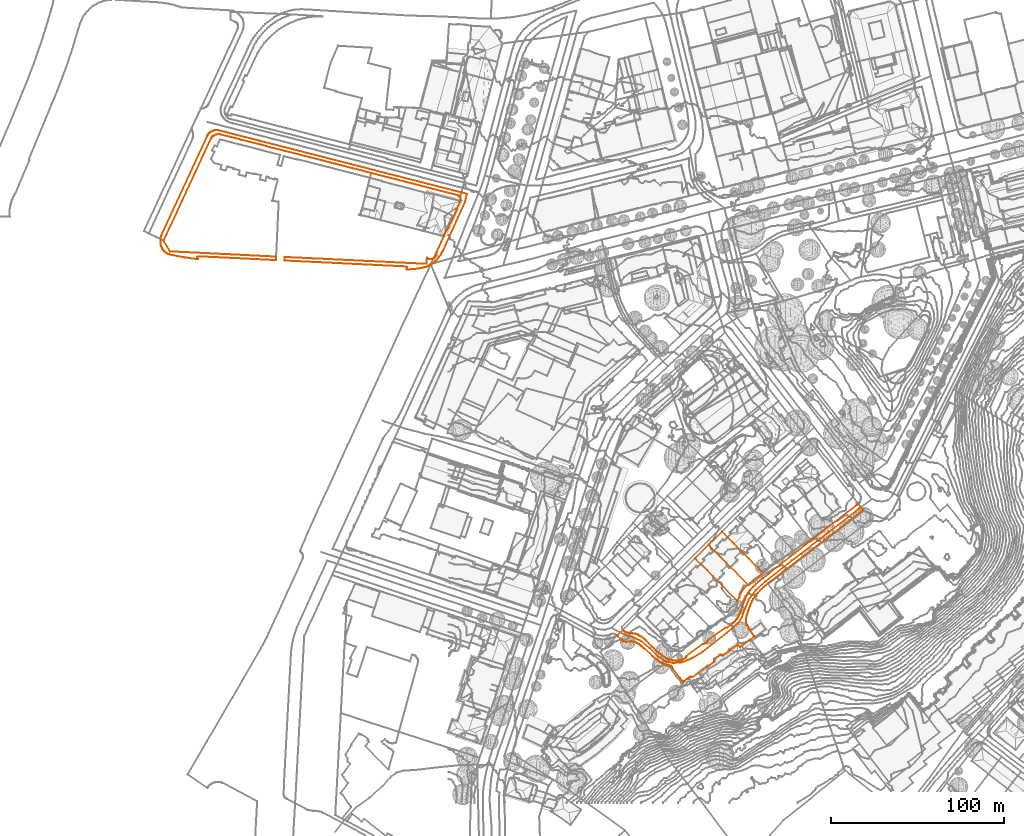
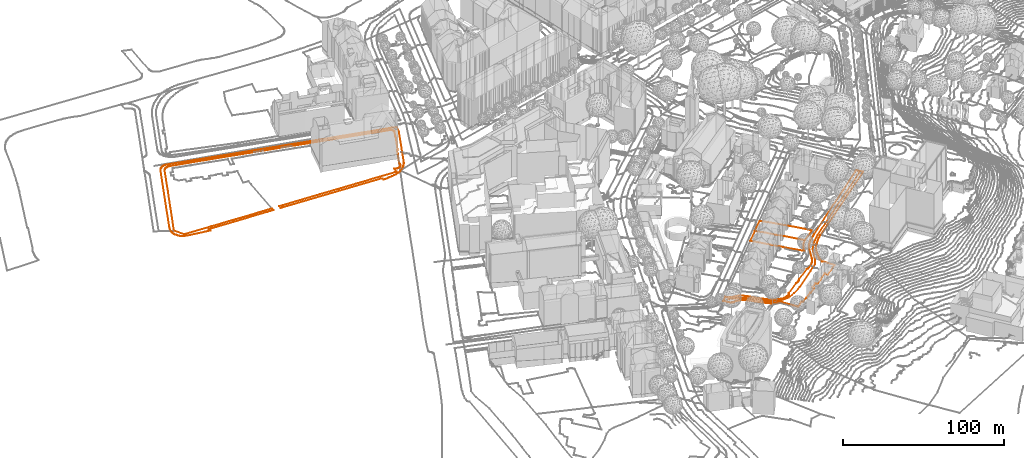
# Not in any storey, part 96 of 494: 5 proxies.
"""IFC2X3 model written with IfcOpenShell, lengths in metres."""

from ifc_helpers import new_model, entity, si_unit, frame, origin_with_axes, place, context, subcontext, project, element, save


model = new_model("IFC2X3")

# Units and contexts
model_context = context("Model", 3, precision=1e-05, world=origin_with_axes())
body_context = subcontext(model_context, "Body", "Model", "MODEL_VIEW")
ifc_project = project(units=[si_unit("AREAUNIT", "SQUARE_METRE"), si_unit("LENGTHUNIT", "METRE")], contexts=[model_context])

# Proxies
proxy_1_placement = place(None, frame((100.2387320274, 96.0867402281, 531.113), z_axis=(0.0, 0.0, 1.0), x_axis=(1.0, 0.0, 0.0)))
element("IfcBuildingElementProxy", 1, at=proxy_1_placement, Name="Road 79", ObjectType="NOTDEFINED", context=body_context, shape_type="GeometricCurveSet", body=[
    entity("IfcGeometricCurveSet", [entity("IfcPolyline", [entity("IfcCartesianPoint", [0.0, 0.0, 0.0]), entity("IfcCartesianPoint", [5.873999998, -1.9079999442, -0.327]), entity("IfcCartesianPoint", [10.1329999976, -3.9629998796, -0.416]), entity("IfcCartesianPoint", [15.125, -8.0759997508, -0.762]), entity("IfcCartesianPoint", [19.2369999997, -12.1869996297, -0.742]), entity("IfcCartesianPoint", [23.3489999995, -15.2709995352, -0.932]), entity("IfcCartesianPoint", [28.7819999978, -16.5919994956, -1.02]), entity("IfcCartesianPoint", [34.2149999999, -16.151999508, -1.14]), entity("IfcCartesianPoint", [39.6479999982, -13.8019995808, -0.895]), entity("IfcCartesianPoint", [45.6689999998, -10.1309996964, -0.771]), entity("IfcCartesianPoint", [59.7670000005, 1.0289999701, -0.377]), entity("IfcCartesianPoint", [65.9339999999, 6.0219998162, -0.226]), entity("IfcCartesianPoint", [68.4299999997, 9.9869996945, 0.024]), entity("IfcCartesianPoint", [70.1919999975, 14.9789995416, 0.289]), entity("IfcCartesianPoint", [72.3939999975, 19.9719993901, 0.511]), entity("IfcCartesianPoint", [76.3590000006, 25.4049992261, 0.835]), entity("IfcCartesianPoint", [81.7929999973, 30.3979990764, 1.275]), entity("IfcCartesianPoint", [97.0639999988, 42.4389987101, 1.964]), entity("IfcCartesianPoint", [118.798, 59.1789981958, 3.142]), entity("IfcCartesianPoint", [135.9779999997, 72.5419977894, 4.028])])]),
])
proxy_2_placement = place(None, frame((-167.0582679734, 323.4217160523, 537.8425140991), z_axis=(0.0, 0.0, 1.0), x_axis=(1.0, 0.0, 0.0)))
element("IfcBuildingElementProxy", 2, at=proxy_2_placement, Name="Roads Outline 1", ObjectType="NOTDEFINED", context=body_context, shape_type="GeometricCurveSet", body=[
    entity("IfcGeometricCurveSet", [entity("IfcPolyline", [entity("IfcCartesianPoint", [0.0520000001, 0.794, 0.0778905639]), entity("IfcCartesianPoint", [0.1720000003, 1.628, 0.1414368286]), entity("IfcCartesianPoint", [0.3599999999, 2.449, 0.1229888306]), entity("IfcCartesianPoint", [0.6140000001, 3.253, 0.1422283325]), entity("IfcCartesianPoint", [0.932, 4.0330000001, 0.1900737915]), entity("IfcCartesianPoint", [27.0049999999, 60.2550000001, 0.5400443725]), entity("IfcCartesianPoint", [27.142, 60.5490000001, 0.5126433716]), entity("IfcCartesianPoint", [27.298, 60.8330000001, 0.4861743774]), entity("IfcCartesianPoint", [27.4399999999, 61.0580000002, 0.4652042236]), entity("IfcCartesianPoint", [27.5929999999, 61.277, 0.4455913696]), entity("IfcCartesianPoint", [27.9020000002, 61.659, 0.4208770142]), entity("IfcCartesianPoint", [28.2420000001, 62.0140000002, 0.3979094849]), entity("IfcCartesianPoint", [28.611, 62.3390000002, 0.3934667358]), entity("IfcCartesianPoint", [29.0180000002, 62.6400000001, 0.429456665]), entity("IfcCartesianPoint", [29.4509999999, 62.9040000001, 0.461022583]), entity("IfcCartesianPoint", [29.997, 63.2100000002, 0.4976103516]), entity("IfcCartesianPoint", [30.574, 63.4500000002, 0.5236322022]), entity("IfcCartesianPoint", [31.176, 63.6220000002, 0.5419093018]), entity("IfcCartesianPoint", [31.7930000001, 63.7220000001, 0.5525355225]), entity("IfcCartesianPoint", [32.3420000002, 63.75, 0.5555108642]), entity("IfcCartesianPoint", [32.892, 63.7220000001, 0.5525355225]), entity("IfcCartesianPoint", [33.4360000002, 63.638, 0.5436094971]), entity("IfcCartesianPoint", [33.9679999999, 63.4990000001, 0.5288390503]), entity("IfcCartesianPoint", [173.8810000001, 27.709, 0.9821370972]), entity("IfcCartesianPoint", [177.0249999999, 26.925, 1.0254997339]), entity("IfcCartesianPoint", [175.7760000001, 22.1140000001, 0.8991806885]), entity("IfcCartesianPoint", [163.142, -5.6869999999, -0.1214408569]), entity("IfcCartesianPoint", [162.6850000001, -6.6339999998, -0.1428406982]), entity("IfcCartesianPoint", [162.1780000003, -7.554, -0.1546447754]), entity("IfcCartesianPoint", [161.6210000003, -8.4449999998, -0.1720094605]), entity("IfcCartesianPoint", [161.0160000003, -9.3049999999, -0.1275359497]), entity("IfcCartesianPoint", [160.5010000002, -9.966, -0.0865463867]), entity("IfcCartesianPoint", [159.9580000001, -10.6039999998, -0.0871304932]), entity("IfcCartesianPoint", [159.3880000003, -11.2169999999, -0.1146835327]), entity("IfcCartesianPoint", [158.602, -11.98, -0.1548526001]), entity("IfcCartesianPoint", [157.7740000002, -12.6979999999, -0.1822859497]), entity("IfcCartesianPoint", [156.9070000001, -13.3669999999, -0.1912289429]), entity("IfcCartesianPoint", [156.5890000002, -13.5939999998, -0.1937782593]), entity("IfcCartesianPoint", [156.267, -13.814, -0.1988867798]), entity("IfcCartesianPoint", [156.1440000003, -13.892, -0.2030286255]), entity("IfcCartesianPoint", [155.9730000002, -13.9979999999, -0.2086572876]), entity("IfcCartesianPoint", [155.4870000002, -14.277, -0.2234723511]), entity("IfcCartesianPoint", [154.9909999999, -14.5379999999, -0.237331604]), entity("IfcCartesianPoint", [154.2030000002, -14.8979999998, -0.2504185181]), entity("IfcCartesianPoint", [153.3940000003, -15.2069999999, -0.254152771]), entity("IfcCartesianPoint", [152.5660000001, -15.463, -0.257246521]), entity("IfcCartesianPoint", [151.7230000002, -15.6639999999, -0.2596755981]), entity("IfcCartesianPoint", [150.165, -15.9509999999, -0.2587494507]), entity("IfcCartesianPoint", [148.5989999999, -16.1949999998, -0.256336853]), entity("IfcCartesianPoint", [147.0270000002, -16.3959999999, -0.2543494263]), entity("IfcCartesianPoint", [145.8960000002, -16.5149999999, -0.2531727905]), entity("IfcCartesianPoint", [144.7630000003, -16.612, -0.2522136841]), entity("IfcCartesianPoint", [143.5079999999, -16.703, -0.2513139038]), entity("IfcCartesianPoint", [142.2510000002, -16.7689999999, -0.251307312]), entity("IfcCartesianPoint", [142.2820000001, -15.4479999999, -0.2570652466]), entity("IfcCartesianPoint", [141.8489999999, -14.9879999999, -0.2515061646]), entity("IfcCartesianPoint", [73.4029999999, -11.6499999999, -0.1401603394]), entity("IfcCartesianPoint", [71.7239999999, -11.5689999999, -0.1353944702]), entity("IfcCartesianPoint", [71.8190000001, -9.5349999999, -0.1062963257]), entity("IfcCartesianPoint", [87.8160000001, -10.2959999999, -0.0868485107]), entity("IfcCartesianPoint", [100.3059999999, -10.9049999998, -0.0963261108]), entity("IfcCartesianPoint", [112.7860000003, -11.504, -0.1315700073]), entity("IfcCartesianPoint", [125.2710000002, -12.1029999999, -0.1595521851]), entity("IfcCartesianPoint", [141.0989999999, -12.8599999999, -0.1855350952]), entity("IfcCartesianPoint", [153.6890000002, -13.4589999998, -0.192262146]), entity("IfcCartesianPoint", [153.858, -9.9309999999, -0.0865143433]), entity("IfcCartesianPoint", [154.2450000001, -10.2119999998, -0.0867716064]), entity("IfcCartesianPoint", [154.6669999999, -10.4369999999, -0.0869776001]), entity("IfcCartesianPoint", [155.1159999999, -10.6009999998, -0.0871277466]), entity("IfcCartesianPoint", [155.5830000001, -10.7019999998, -0.0872202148]), entity("IfcCartesianPoint", [156.0150000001, -10.737, -0.0872522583]), entity("IfcCartesianPoint", [156.4479999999, -10.7169999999, -0.0872339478]), entity("IfcCartesianPoint", [156.875, -10.642, -0.0871652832]), entity("IfcCartesianPoint", [157.2889999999, -10.5149999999, -0.0870490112]), entity("IfcCartesianPoint", [157.6839999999, -10.3359999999, -0.0868851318]), entity("IfcCartesianPoint", [158.0619999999, -10.1029999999, -0.086671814]), entity("IfcCartesianPoint", [158.4070000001, -9.8219999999, -0.0864145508]), entity("IfcCartesianPoint", [158.7120000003, -9.5, -0.1095284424]), entity("IfcCartesianPoint", [158.9739999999, -9.1409999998, -0.1426807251]), entity("IfcCartesianPoint", [159.1880000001, -8.7519999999, -0.1786033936]), entity("IfcCartesianPoint", [159.3500000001, -8.338, -0.1696714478]), entity("IfcCartesianPoint", [159.4569999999, -7.9069999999, -0.1602538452]), entity("IfcCartesianPoint", [159.5070000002, -7.466, -0.1536618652]), entity("IfcCartesianPoint", [159.5, -7.0219999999, -0.1487026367]), entity("IfcCartesianPoint", [159.4360000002, -6.5819999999, -0.1415806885]), entity("IfcCartesianPoint", [163.6490000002, 2.4480000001, 0.1229650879]), entity("IfcCartesianPoint", [163.5380000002, 2.476, 0.1236298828]), entity("IfcCartesianPoint", [165.2880000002, 6.1670000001, 0.2662664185]), entity("IfcCartesianPoint", [165.5580000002, 6.037, 0.2617437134]), entity("IfcCartesianPoint", [171.3859999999, 18.3890000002, 0.7349958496]), entity("IfcCartesianPoint", [171.1260000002, 18.5090000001, 0.724586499]), entity("IfcCartesianPoint", [173.1460000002, 22.78, 0.9627894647]), entity("IfcCartesianPoint", [173.2889999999, 23.179, 0.9806465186]), entity("IfcCartesianPoint", [173.3620000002, 23.5970000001, 0.9690089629]), entity("IfcCartesianPoint", [173.3640000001, 24.0210000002, 0.9564182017]), entity("IfcCartesianPoint", [173.2940000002, 24.439, 0.9469736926]), entity("IfcCartesianPoint", [173.1550000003, 24.8400000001, 0.9459363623]), entity("IfcCartesianPoint", [173.0070000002, 25.1680000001, 0.950545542]), entity("IfcCartesianPoint", [172.8020000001, 25.4640000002, 0.9593605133]), entity("IfcCartesianPoint", [172.548, 25.719, 0.9617019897]), entity("IfcCartesianPoint", [172.2519999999, 25.9240000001, 0.9560527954]), entity("IfcCartesianPoint", [171.9240000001, 26.0730000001, 0.9473505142]), entity("IfcCartesianPoint", [171.5750000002, 26.1600000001, 0.9446512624]), entity("IfcCartesianPoint", [121.6710000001, 38.9470000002, 0.865111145]), entity("IfcCartesianPoint", [111.2400000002, 41.6160000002, 0.8527844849]), entity("IfcCartesianPoint", [100.8300000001, 44.2860000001, 0.8056347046]), entity("IfcCartesianPoint", [90.4190000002, 46.9550000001, 0.7582887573]), entity("IfcCartesianPoint", [71.9980000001, 51.675, 0.6744817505]), entity("IfcCartesianPoint", [57.9980000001, 55.2540000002, 0.6109493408]), entity("IfcCartesianPoint", [46.8170000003, 58.1230000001, 0.5599923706]), entity("IfcCartesianPoint", [34.7570000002, 61.213, 0.4507581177]), entity("IfcCartesianPoint", [34.1910000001, 61.3250000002, 0.4424859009]), entity("IfcCartesianPoint", [33.6159999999, 61.3700000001, 0.4395745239]), entity("IfcCartesianPoint", [33.0389999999, 61.3490000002, 0.4409331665]), entity("IfcCartesianPoint", [32.469, 61.2620000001, 0.4465618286]), entity("IfcCartesianPoint", [31.912, 61.1090000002, 0.4604509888]), entity("IfcCartesianPoint", [31.3769999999, 60.8930000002, 0.4805823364]), entity("IfcCartesianPoint", [30.8710000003, 60.6160000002, 0.5063989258]), entity("IfcCartesianPoint", [30.3999999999, 60.2820000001, 0.5375279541]), entity("IfcCartesianPoint", [29.9709999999, 59.8960000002, 0.5442662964]), entity("IfcCartesianPoint", [29.5890000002, 59.4640000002, 0.5487487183]), entity("IfcCartesianPoint", [29.2600000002, 58.99, 0.5527342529]), entity("IfcCartesianPoint", [28.9870000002, 58.4820000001, 0.5561759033]), entity("IfcCartesianPoint", [19.5090000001, 38.017, 0.8076929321]), entity("IfcCartesianPoint", [12.4110000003, 22.7340000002, 0.6745949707]), entity("IfcCartesianPoint", [5.8100000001, 8.4810000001, 0.3444668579]), entity("IfcCartesianPoint", [1.8530000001, -0.0619999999, 0.0037803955]), entity("IfcCartesianPoint", [5.6140000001, -6.2829999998, -0.1343356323]), entity("IfcCartesianPoint", [24.594, -7.2209999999, -0.150925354]), entity("IfcCartesianPoint", [39.665, -7.96, -0.1614119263]), entity("IfcCartesianPoint", [52.3650000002, -8.5989999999, -0.1753744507]), entity("IfcCartesianPoint", [66.8250000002, -9.298, -0.128182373]), entity("IfcCartesianPoint", [66.7290000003, -11.325, -0.1210380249]), entity("IfcCartesianPoint", [62.2650000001, -11.1069999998, -0.1082113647]), entity("IfcCartesianPoint", [21.7919999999, -9.1329999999, -0.1434194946]), entity("IfcCartesianPoint", [21.3190000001, -9.5379999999, -0.1060192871]), entity("IfcCartesianPoint", [21.3030000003, -10.2169999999, -0.0867761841]), entity("IfcCartesianPoint", [21.8130000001, -10.8219999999, -0.0914425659]), entity("IfcCartesianPoint", [21.2460000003, -10.754, -0.0874415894]), entity("IfcCartesianPoint", [20.6800000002, -10.6839999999, -0.0872037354]), entity("IfcCartesianPoint", [18.8590000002, -10.449, -0.0869885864]), entity("IfcCartesianPoint", [17.0389999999, -10.199, -0.0867597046]), entity("IfcCartesianPoint", [14.0279999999, -9.747, -0.0867189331]), entity("IfcCartesianPoint", [11.023, -9.2519999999, -0.1324302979]), entity("IfcCartesianPoint", [8.3420000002, -8.74, -0.1784553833]), entity("IfcCartesianPoint", [5.6699999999, -8.1779999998, -0.166175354]), entity("IfcCartesianPoint", [4.9820000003, -7.9749999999, -0.1617396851]), entity("IfcCartesianPoint", [4.318, -7.706, -0.1563425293]), entity("IfcCartesianPoint", [3.6830000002, -7.372, -0.1526119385]), entity("IfcCartesianPoint", [3.0840000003, -6.9779999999, -0.1482111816]), entity("IfcCartesianPoint", [2.5270000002, -6.5259999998, -0.1402237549]), entity("IfcCartesianPoint", [2.017, -6.0219999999, -0.1280113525]), entity("IfcCartesianPoint", [1.577, -5.4939999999, -0.1214290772]), entity("IfcCartesianPoint", [1.1890000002, -4.9269999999, -0.1213944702]), entity("IfcCartesianPoint", [0.8560000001, -4.3259999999, -0.0941727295]), entity("IfcCartesianPoint", [0.5810000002, -3.696, -0.0555249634]), entity("IfcCartesianPoint", [0.3659999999, -3.0429999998, -0.0337636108]), entity("IfcCartesianPoint", [0.213, -2.3729999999, -0.0070060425]), entity("IfcCartesianPoint", [0.0810000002, -1.588, 0.0250504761]), entity("IfcCartesianPoint", [0.0100000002, -0.7959999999, 0.0446764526]), entity("IfcCartesianPoint", [0.0, 0.0, 0.0]), entity("IfcCartesianPoint", [0.0520000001, 0.794, 0.0778905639])])]),
])
proxy_3_placement = place(None, frame((96.6207320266, 95.4677160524, 531.3511638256), z_axis=(0.0, 0.0, 1.0), x_axis=(1.0, 0.0, 0.0)))
element("IfcBuildingElementProxy", 3, at=proxy_3_placement, Name="Roads Outline 31", ObjectType="NOTDEFINED", context=body_context, shape_type="GeometricCurveSet", body=[
    entity("IfcGeometricCurveSet", [entity("IfcPolyline", [entity("IfcCartesianPoint", [0.0, 0.0, 0.0]), entity("IfcCartesianPoint", [3.2930000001, 3.179, 0.0158061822]), entity("IfcCartesianPoint", [3.9270000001, 2.5449999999, -0.0569556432]), entity("IfcCartesianPoint", [4.341, 2.2609999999, -0.0816735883]), entity("IfcCartesianPoint", [4.7660000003, 1.993, -0.1315604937]), entity("IfcCartesianPoint", [5.04, 1.834, -0.164654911]), entity("IfcCartesianPoint", [5.318, 1.6810000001, -0.1909944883]), entity("IfcCartesianPoint", [5.608, 1.557, -0.2136066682]), entity("IfcCartesianPoint", [5.7760000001, 1.5020000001, -0.2309464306]), entity("IfcCartesianPoint", [5.9479999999, 1.4580000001, -0.2476230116]), entity("IfcCartesianPoint", [6.3100000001, 1.3870000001, -0.2802835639]), entity("IfcCartesianPoint", [6.6770000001, 1.348, -0.3148806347]), entity("IfcCartesianPoint", [6.8999999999, 1.3260000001, -0.339520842]), entity("IfcCartesianPoint", [7.1240000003, 1.3100000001, -0.3649891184]), entity("IfcCartesianPoint", [9.1630000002, 1.148, -0.5103628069]), entity("IfcCartesianPoint", [9.7039999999, 1.094, -0.5351432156]), entity("IfcCartesianPoint", [10.2400000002, 1.0, -0.5315729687]), entity("IfcCartesianPoint", [10.8850000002, 0.831, -0.5443188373]), entity("IfcCartesianPoint", [11.5120000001, 0.6040000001, -0.5636517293]), entity("IfcCartesianPoint", [12.1150000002, 0.324, -0.5659362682]), entity("IfcCartesianPoint", [12.6910000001, -0.0079999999, -0.5875508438]), entity("IfcCartesianPoint", [13.344, -0.3810000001, -0.6252667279]), entity("IfcCartesianPoint", [13.9870000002, -0.7719999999, -0.6190830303]), entity("IfcCartesianPoint", [14.7919999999, -1.344, -0.6405655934]), entity("IfcCartesianPoint", [15.5589999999, -1.9680000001, -0.648665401]), entity("IfcCartesianPoint", [16.1099999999, -2.4609999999, -0.6667955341]), entity("IfcCartesianPoint", [16.639, -2.977, -0.6769479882]), entity("IfcCartesianPoint", [18.0920000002, -4.426, -0.7455713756]), entity("IfcCartesianPoint", [19.4879999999, -5.9299999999, -0.7901399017]), entity("IfcCartesianPoint", [20.3790000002, -6.8300000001, -0.8030144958]), entity("IfcCartesianPoint", [21.2910000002, -7.71, -0.8413836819]), entity("IfcCartesianPoint", [22.219, -8.5649999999, -0.8702769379]), entity("IfcCartesianPoint", [23.1669999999, -9.399, -0.8764018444]), entity("IfcCartesianPoint", [24.051, -10.1810000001, -0.9075246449]), entity("IfcCartesianPoint", [24.9720000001, -10.919, -0.9522966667]), entity("IfcCartesianPoint", [25.9270000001, -11.612, -0.9829199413]), entity("IfcCartesianPoint", [27.0860000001, -12.3629999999, -1.0168337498]), entity("IfcCartesianPoint", [28.2860000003, -13.048, -1.0510406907]), entity("IfcCartesianPoint", [29.0060000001, -13.392, -1.0801719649]), entity("IfcCartesianPoint", [29.7409999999, -13.703, -1.1113975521]), entity("IfcCartesianPoint", [30.4890000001, -13.9809999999, -1.135530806]), entity("IfcCartesianPoint", [31.3810000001, -14.2390000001, -1.1792306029]), entity("IfcCartesianPoint", [32.287, -14.4380000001, -1.1942427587]), entity("IfcCartesianPoint", [33.2050000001, -14.5759999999, -1.2081873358]), entity("IfcCartesianPoint", [34.2689999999, -14.675, -1.2073782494]), entity("IfcCartesianPoint", [35.3370000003, -14.699, -1.1712599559]), entity("IfcCartesianPoint", [35.9670000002, -14.6100000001, -1.1548979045]), entity("IfcCartesianPoint", [36.588, -14.47, -1.147563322]), entity("IfcCartesianPoint", [37.1950000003, -14.281, -1.1321978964]), entity("IfcCartesianPoint", [37.7860000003, -14.044, -1.1153137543]), entity("IfcCartesianPoint", [38.4110000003, -13.7309999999, -1.1053971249]), entity("IfcCartesianPoint", [39.0060000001, -13.3640000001, -1.0971912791]), entity("IfcCartesianPoint", [39.5670000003, -12.9469999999, -1.0887345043]), entity("IfcCartesianPoint", [39.73, -12.8049999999, -1.0841322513]), entity("IfcCartesianPoint", [39.8590000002, -12.632, -1.0757289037]), entity("IfcCartesianPoint", [39.949, -12.436, -1.0694845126]), entity("IfcCartesianPoint", [39.9920000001, -12.246, -1.0658453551]), entity("IfcCartesianPoint", [39.9990000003, -12.0519999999, -1.0636627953]), entity("IfcCartesianPoint", [39.969, -11.8600000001, -1.0624808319]), entity("IfcCartesianPoint", [49.2820000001, -5.0079999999, -0.8290300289]), entity("IfcCartesianPoint", [49.8050000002, -4.977, -0.8148877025]), entity("IfcCartesianPoint", [50.4380000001, -4.6880000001, -0.793606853]), entity("IfcCartesianPoint", [51.0360000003, -4.331, -0.7769803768]), entity("IfcCartesianPoint", [51.5900000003, -3.9099999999, -0.7550214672]), entity("IfcCartesianPoint", [52.0789999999, -3.446, -0.748179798]), entity("IfcCartesianPoint", [52.517, -2.9339999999, -0.7399364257]), entity("IfcCartesianPoint", [52.8990000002, -2.379, -0.7304586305]), entity("IfcCartesianPoint", [62.5130000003, 4.564, -0.4979582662]), entity("IfcCartesianPoint", [63.4550000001, 4.561, -0.4534208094]), entity("IfcCartesianPoint", [67.0500000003, 7.1850000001, -0.2970001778]), entity("IfcCartesianPoint", [67.6669999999, 7.7450000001, -0.2563687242]), entity("IfcCartesianPoint", [68.2450000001, 8.345, -0.2048557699]), entity("IfcCartesianPoint", [68.7820000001, 8.983, -0.1681399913]), entity("IfcCartesianPoint", [69.2650000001, 9.645, -0.1403664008]), entity("IfcCartesianPoint", [69.7030000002, 10.3370000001, -0.1178567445]), entity("IfcCartesianPoint", [70.0950000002, 11.0560000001, -0.0483443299]), entity("IfcCartesianPoint", [70.3810000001, 11.6640000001, -0.0099176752]), entity("IfcCartesianPoint", [70.6329999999, 12.2860000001, -0.0082693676]), entity("IfcCartesianPoint", [70.801, 12.71, 0.0299553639]), entity("IfcCartesianPoint", [70.9620000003, 13.1359999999, 0.0622557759]), entity("IfcCartesianPoint", [73.75, 20.6159999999, 0.4204763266]), entity("IfcCartesianPoint", [74.088, 21.601, 0.4544270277]), entity("IfcCartesianPoint", [74.4930000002, 22.5600000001, 0.533122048]), entity("IfcCartesianPoint", [74.9640000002, 23.4879999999, 0.591528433]), entity("IfcCartesianPoint", [75.4980000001, 24.382, 0.627089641]), entity("IfcCartesianPoint", [76.1090000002, 25.2579999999, 0.6667514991]), entity("IfcCartesianPoint", [76.7820000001, 26.088, 0.7111169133]), entity("IfcCartesianPoint", [77.5109999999, 26.8689999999, 0.7673133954]), entity("IfcCartesianPoint", [78.4270000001, 27.8640000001, 0.8253613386]), entity("IfcCartesianPoint", [79.3799999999, 28.825, 0.8766474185]), entity("IfcCartesianPoint", [80.3680000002, 29.7490000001, 0.9326248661]), entity("IfcCartesianPoint", [81.4270000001, 30.7390000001, 0.9778234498]), entity("IfcCartesianPoint", [82.5070000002, 31.706, 0.9497418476]), entity("IfcCartesianPoint", [83.3170000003, 32.368, 1.0122494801]), entity("IfcCartesianPoint", [84.1469999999, 33.0060000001, 1.0813364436]), entity("IfcCartesianPoint", [122.0490000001, 62.7239999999, 3.2017164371]), entity("IfcCartesianPoint", [138.233, 75.199, 4.1804072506]), entity("IfcCartesianPoint", [139.2660000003, 76.04, 4.1295459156]), entity("IfcCartesianPoint", [142.0729999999, 72.4369999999, 4.0428595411]), entity("IfcCartesianPoint", [142.1070000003, 72.3929999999, 4.0430508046]), entity("IfcCartesianPoint", [86.9390000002, 29.956, 1.2352717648]), entity("IfcCartesianPoint", [86.7320000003, 29.797, 1.2148501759]), entity("IfcCartesianPoint", [85.5920000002, 28.8400000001, 1.1947934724]), entity("IfcCartesianPoint", [84.4870000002, 27.841, 1.1339055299]), entity("IfcCartesianPoint", [83.4280000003, 26.814, 0.8697069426]), entity("IfcCartesianPoint", [82.409, 25.747, 0.8219906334]), entity("IfcCartesianPoint", [81.432, 24.6410000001, 0.7399673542]), entity("IfcCartesianPoint", [80.648, 23.7450000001, 0.6977840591]), entity("IfcCartesianPoint", [79.9110000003, 22.8100000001, 0.6717600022]), entity("IfcCartesianPoint", [79.2209999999, 21.8389999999, 0.6201259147]), entity("IfcCartesianPoint", [78.5819999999, 20.834, 0.5139970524]), entity("IfcCartesianPoint", [78.0330000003, 19.8640000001, 0.4536036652]), entity("IfcCartesianPoint", [77.5320000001, 18.868, 0.3751792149]), entity("IfcCartesianPoint", [77.0789999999, 17.8500000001, 0.3506013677]), entity("IfcCartesianPoint", [76.676, 16.811, 0.3187545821]), entity("IfcCartesianPoint", [76.142, 15.4069999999, 0.2706407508]), entity("IfcCartesianPoint", [75.6490000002, 13.9879999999, 0.2033171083]), entity("IfcCartesianPoint", [75.2409999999, 12.7039999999, 0.1325761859]), entity("IfcCartesianPoint", [74.8659999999, 11.409, 0.0792884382]), entity("IfcCartesianPoint", [74.6460000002, 10.5179999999, 0.0196140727]), entity("IfcCartesianPoint", [74.4500000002, 9.622, -0.0040469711]), entity("IfcCartesianPoint", [74.3740000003, 9.0249999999, -0.004695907]), entity("IfcCartesianPoint", [74.3390000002, 8.4240000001, -0.0067944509]), entity("IfcCartesianPoint", [74.3310000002, 7.892, -0.02139242]), entity("IfcCartesianPoint", [74.3810000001, 7.3629999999, -0.042645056]), entity("IfcCartesianPoint", [74.415, 7.0560000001, -0.0639365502]), entity("IfcCartesianPoint", [74.4900000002, 6.7560000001, -0.0959011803]), entity("IfcCartesianPoint", [74.6040000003, 6.4680000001, -0.1293537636]), entity("IfcCartesianPoint", [74.6890000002, 6.2409999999, -0.1538042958]), entity("IfcCartesianPoint", [74.8229999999, 6.04, -0.1545982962]), entity("IfcCartesianPoint", [75.0010000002, 5.8759999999, -0.1530405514]), entity("IfcCartesianPoint", [75.125, 5.7990000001, -0.1531824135]), entity("IfcCartesianPoint", [75.2579999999, 5.7390000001, -0.1538845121]), entity("IfcCartesianPoint", [76.3900000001, 3.9990000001, -0.149455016]), entity("IfcCartesianPoint", [76.1630000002, 3.8160000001, -0.1884783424]), entity("IfcCartesianPoint", [76.96, 2.719, -0.1878580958]), entity("IfcCartesianPoint", [79.3510000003, -0.557, -0.2921348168]), entity("IfcCartesianPoint", [76.9590000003, -2.3030000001, -0.3393293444]), entity("IfcCartesianPoint", [70.932, -6.706, -0.9336899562]), entity("IfcCartesianPoint", [69.6710000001, -4.9779999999, -0.4540167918]), entity("IfcCartesianPoint", [65.0389999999, -8.3589999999, -0.9436426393]), entity("IfcCartesianPoint", [65.2409999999, -8.6359999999, -1.0177780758]), entity("IfcCartesianPoint", [61.2230000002, -11.571, -1.0599296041]), entity("IfcCartesianPoint", [61.1920000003, -11.5290000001, -1.0495729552]), entity("IfcCartesianPoint", [60.9620000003, -11.598, -1.0425273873]), entity("IfcCartesianPoint", [60.7209999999, -11.594, -1.0211534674]), entity("IfcCartesianPoint", [60.4920000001, -11.52, -0.9879663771]), entity("IfcCartesianPoint", [60.2960000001, -11.382, -0.9458653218]), entity("IfcCartesianPoint", [60.2560000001, -11.4110000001, -0.9477569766]), entity("IfcCartesianPoint", [60.074, -11.162, -0.886503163]), entity("IfcCartesianPoint", [59.8330000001, -11.3389999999, -0.8983162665]), entity("IfcCartesianPoint", [59.6370000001, -11.071, -0.8323868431]), entity("IfcCartesianPoint", [59.54, -11.142, -0.8370969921]), entity("IfcCartesianPoint", [59.5049999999, -11.094, -0.8252990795]), entity("IfcCartesianPoint", [56.145, -13.548, -0.8605123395]), entity("IfcCartesianPoint", [56.1800000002, -13.5959999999, -0.8720271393]), entity("IfcCartesianPoint", [56.0840000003, -13.666, -0.8710225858]), entity("IfcCartesianPoint", [56.2800000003, -13.9339999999, -0.9353167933]), entity("IfcCartesianPoint", [56.0279999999, -14.115, -0.9319131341]), entity("IfcCartesianPoint", [56.2110000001, -14.3659999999, -0.992023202]), entity("IfcCartesianPoint", [56.1710000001, -14.395, -0.9915042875]), entity("IfcCartesianPoint", [56.2430000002, -14.625, -1.0349702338]), entity("IfcCartesianPoint", [56.2430000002, -14.8670000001, -1.0713829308]), entity("IfcCartesianPoint", [56.173, -15.098, -1.0974092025]), entity("IfcCartesianPoint", [56.0380000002, -15.297, -1.1106918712]), entity("IfcCartesianPoint", [56.0670000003, -15.3370000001, -1.1202422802]), entity("IfcCartesianPoint", [52.0470000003, -18.2749999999, -1.1863325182]), entity("IfcCartesianPoint", [51.8470000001, -18.0009999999, -1.1087987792]), entity("IfcCartesianPoint", [47.2239999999, -21.3759999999, -0.9358706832]), entity("IfcCartesianPoint", [43.3680000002, -24.192, -1.036458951]), entity("IfcCartesianPoint", [43.165, -24.0719999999, -1.0279008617]), entity("IfcCartesianPoint", [42.9450000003, -23.987, -1.013885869]), entity("IfcCartesianPoint", [42.673, -23.9339999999, -0.9943506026]), entity("IfcCartesianPoint", [42.3960000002, -23.9339999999, -1.0060903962]), entity("IfcCartesianPoint", [42.1230000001, -23.987, -1.042375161]), entity("IfcCartesianPoint", [41.8659999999, -24.0900000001, -1.078830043]), entity("IfcCartesianPoint", [38.7749999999, -26.4169999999, -1.6610765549]), entity("IfcCartesianPoint", [38.574, -26.524, -1.5469449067]), entity("IfcCartesianPoint", [38.3530000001, -26.5830000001, -1.4907231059]), entity("IfcCartesianPoint", [38.125, -26.5900000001, -1.4283874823]), entity("IfcCartesianPoint", [37.9010000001, -26.544, -1.3598199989]), entity("IfcCartesianPoint", [37.7000000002, -26.453, -1.2951375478]), entity("IfcCartesianPoint", [37.5240000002, -26.3200000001, -1.2455517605]), entity("IfcCartesianPoint", [37.3810000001, -26.152, -1.2301741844]), entity("IfcCartesianPoint", [36.3200000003, -24.699, -1.177052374]), entity("IfcCartesianPoint", [32.4220000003, -19.3859999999, -1.1804190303]), entity("IfcCartesianPoint", [31.7590000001, -18.371, -1.1461752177]), entity("IfcCartesianPoint", [31.5780000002, -18.1329999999, -1.1384723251]), entity("IfcCartesianPoint", [31.3650000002, -17.923, -1.1469649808]), entity("IfcCartesianPoint", [31.1850000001, -17.7849999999, -1.1472619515]), entity("IfcCartesianPoint", [30.9909999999, -17.669, -1.1502887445]), entity("IfcCartesianPoint", [30.801, -17.581, -1.1521615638]), entity("IfcCartesianPoint", [30.6040000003, -17.5109999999, -1.1535257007]), entity("IfcCartesianPoint", [29.5490000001, -17.3019999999, -1.2795969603]), entity("IfcCartesianPoint", [28.5060000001, -17.0360000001, -1.253468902]), entity("IfcCartesianPoint", [27.54, -16.7339999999, -1.2903784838]), entity("IfcCartesianPoint", [26.591, -16.3840000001, -1.2486742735]), entity("IfcCartesianPoint", [25.6600000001, -15.986, -1.2235573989]), entity("IfcCartesianPoint", [24.8999999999, -15.568, -1.1668048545]), entity("IfcCartesianPoint", [24.1680000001, -15.1000000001, -1.14570038]), entity("IfcCartesianPoint", [23.469, -14.5859999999, -1.1166573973]), entity("IfcCartesianPoint", [22.4849999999, -13.8219999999, -1.0802254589]), entity("IfcCartesianPoint", [21.548, -13.0020000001, -1.0797485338]), entity("IfcCartesianPoint", [20.7820000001, -12.3359999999, -1.052997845]), entity("IfcCartesianPoint", [20.0270000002, -11.6580000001, -1.0260798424]), entity("IfcCartesianPoint", [15.5419999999, -7.5079999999, -0.8775449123]), entity("IfcCartesianPoint", [15.04, -7.058, -0.845397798]), entity("IfcCartesianPoint", [14.5300000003, -6.6189999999, -0.8350795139]), entity("IfcCartesianPoint", [13.9199999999, -6.1170000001, -0.794149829]), entity("IfcCartesianPoint", [13.298, -5.6299999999, -0.7860997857]), entity("IfcCartesianPoint", [12.6570000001, -5.1510000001, -0.7644378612]), entity("IfcCartesianPoint", [12.0049999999, -4.6869999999, -0.752936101]), entity("IfcCartesianPoint", [11.503, -4.398, -0.7481102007]), entity("IfcCartesianPoint", [10.9849999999, -4.138, -0.7511080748]), entity("IfcCartesianPoint", [10.4670000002, -3.925, -0.7552954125]), entity("IfcCartesianPoint", [9.9360000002, -3.746, -0.7441986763]), entity("IfcCartesianPoint", [9.3939999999, -3.6040000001, -0.7195945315]), entity("IfcCartesianPoint", [8.7080000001, -3.49, -0.661742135]), entity("IfcCartesianPoint", [8.0150000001, -3.442, -0.6460953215]), entity("IfcCartesianPoint", [7.4590000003, -3.456, -0.637127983]), entity("IfcCartesianPoint", [6.9050000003, -3.5149999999, -0.6132292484]), entity("IfcCartesianPoint", [5.6150000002, -3.662, -0.5250385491]), entity("IfcCartesianPoint", [5.327, -3.723, -0.5179361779]), entity("IfcCartesianPoint", [5.034, -3.7439999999, -0.5130717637]), entity("IfcCartesianPoint", [4.7409999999, -3.7239999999, -0.5052989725]), entity("IfcCartesianPoint", [4.4539999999, -3.665, -0.4986343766]), entity("IfcCartesianPoint", [4.2390000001, -3.6329999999, -0.5020115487]), entity("IfcCartesianPoint", [4.0279999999, -3.5800000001, -0.5045682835]), entity("IfcCartesianPoint", [3.7450000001, -3.473, -0.5078943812]), entity("IfcCartesianPoint", [3.48, -3.3289999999, -0.5077427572]), entity("IfcCartesianPoint", [3.236, -3.1499999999, -0.4927837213]), entity("IfcCartesianPoint", [2.7460000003, -2.7009999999, -0.4305018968]), entity("IfcCartesianPoint", [2.102, -2.1070000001, -0.357239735]), entity("IfcCartesianPoint", [0.656, -0.6140000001, -0.086058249]), entity("IfcCartesianPoint", [0.0780000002, -0.034, -0.0051900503]), entity("IfcCartesianPoint", [0.0, 0.0, 0.0])])]),
])
proxy_4_placement = place(None, frame((149.4177320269, 147.7507160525, 533.9796271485), z_axis=(0.0, 0.0, 1.0), x_axis=(1.0, 0.0, 0.0)))
element("IfcBuildingElementProxy", 4, at=proxy_4_placement, Name="Cadastre 95", ObjectType="NOTDEFINED", context=body_context, shape_type="GeometricCurveSet", body=[
    entity("IfcGeometricCurveSet", [entity("IfcPolyline", [entity("IfcCartesianPoint", [0.0, 0.0, 0.0]), entity("IfcCartesianPoint", [7.7799999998, 7.702, 0.2987870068]), entity("IfcCartesianPoint", [11.0119999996, 4.4579999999, 0.3734243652]), entity("IfcCartesianPoint", [23.2859999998, -7.858, -0.0751989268]), entity("IfcCartesianPoint", [31.4739999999, -16.148, -0.720618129]), entity("IfcCartesianPoint", [22.7249999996, -22.8910000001, -1.0087543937]), entity("IfcCartesianPoint", [15.497, -15.601, -0.475335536]), entity("IfcCartesianPoint", [3.2339999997, -3.2560000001, 0.0729254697]), entity("IfcCartesianPoint", [0.0, 0.0, 0.0])])]),
])
proxy_5_placement = place(None, frame((141.6377320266, 140.0377160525, 533.7576011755), z_axis=(0.0, 0.0, 1.0), x_axis=(1.0, 0.0, 0.0)))
element("IfcBuildingElementProxy", 5, at=proxy_5_placement, Name="Cadastre 98", ObjectType="NOTDEFINED", context=body_context, shape_type="GeometricCurveSet", body=[
    entity("IfcGeometricCurveSet", [entity("IfcPolyline", [entity("IfcCartesianPoint", [0.0, 0.0, 0.0]), entity("IfcCartesianPoint", [7.7800000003, 7.713, 0.222025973]), entity("IfcCartesianPoint", [11.014, 4.4569999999, 0.2949514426]), entity("IfcCartesianPoint", [23.2770000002, -7.888, -0.2533095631]), entity("IfcCartesianPoint", [30.5049999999, -15.1780000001, -0.7867284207]), entity("IfcCartesianPoint", [28.1950000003, -17.318, -1.1139715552]), entity("IfcCartesianPoint", [25.9950000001, -20.9890000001, -0.9924710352]), entity("IfcCartesianPoint", [24.5550000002, -24.73, -1.0382610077]), entity("IfcCartesianPoint", [15.4870000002, -15.6100000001, -0.6674854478]), entity("IfcCartesianPoint", [3.247, -3.2720000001, 0.1127232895]), entity("IfcCartesianPoint", [0.7039999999, -0.71, 0.1497301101]), entity("IfcCartesianPoint", [0.0, 0.0, 0.0])])]),
])

save(model, "model.ifc")
